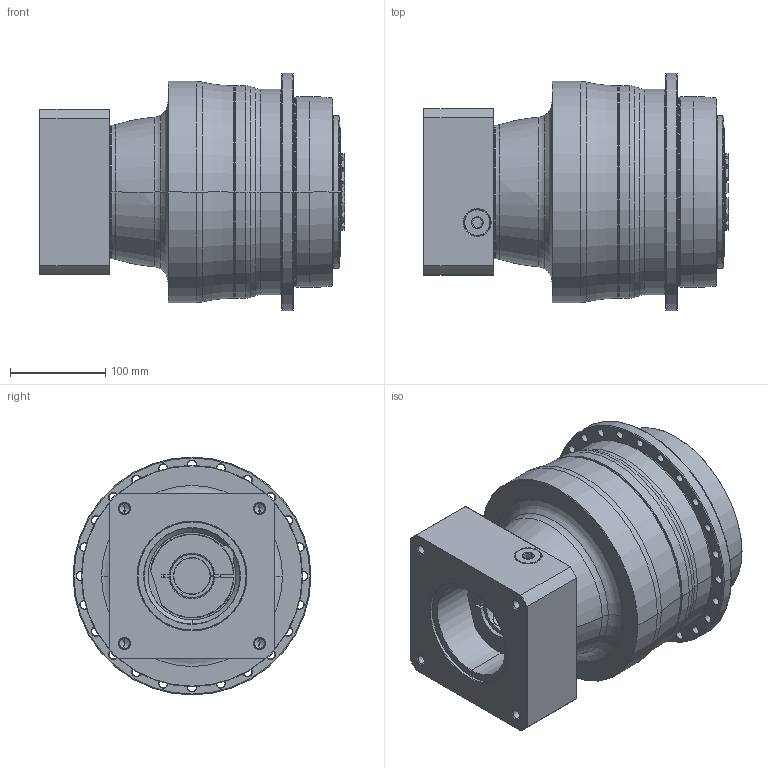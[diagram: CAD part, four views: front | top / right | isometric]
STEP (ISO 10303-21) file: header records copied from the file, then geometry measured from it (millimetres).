
FILE_DESCRIPTION((''),'2;1');
FILE_NAME('APC200_3ST_38-P0409910201_ASM','2018-07-05T',('d01226'),(''),'PRO/ENGINEER BY PARAMETRIC TECHNOLOGY CORPORATION, 2008410','PRO/ENGINEER BY PARAMETRIC TECHNOLOGY CORPORATION, 2008410','');
FILE_SCHEMA(('CONFIG_CONTROL_DESIGN'));
Length unit declared in the file: millimetre
Products named in the file (9): P0278601003; P0359660103; P1366600501; P0503900012; P0912405001; P1211600001; P0409910201; 21711422019; APC200_3ST_38-P0409910201_ASM
Assembly tree (8 placements, depth 2):
  APC200_3ST_38-P0409910201_ASM
    P0278601003
    P0359660103
    P1366600501
    P0503900012
    P0912405001
    P1211600001
    P0409910201
    21711422019
Bounding box: 320.1 x 249.5 x 249.5 mm (x, y, z)
Volume: 9581668.3 mm3; surface area: 638844.8 mm2
Topology: 9 solids, 19 shells, 672 faces, 1610 edges, 977 vertices
Faces by surface type: cone 222, cylinder 208, plane 119, torus 107, bspline 16
Entity records: 24869 total; most frequent: CARTESIAN_POINT 8826, DIRECTION 3601, ORIENTED_EDGE 3142, EDGE_CURVE 1592, AXIS2_PLACEMENT_3D 1564, VERTEX_POINT 977, CIRCLE 881, EDGE_LOOP 773
